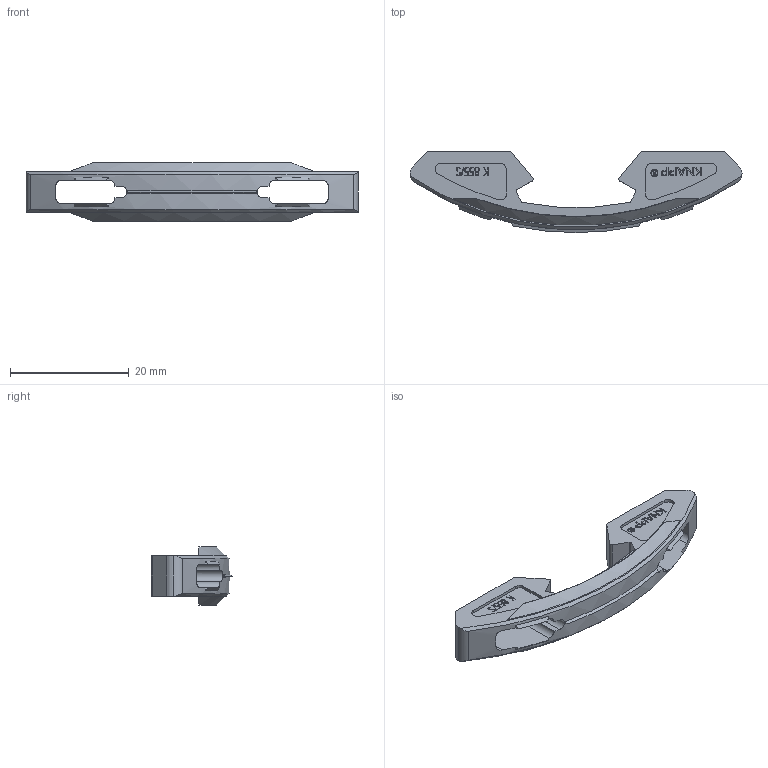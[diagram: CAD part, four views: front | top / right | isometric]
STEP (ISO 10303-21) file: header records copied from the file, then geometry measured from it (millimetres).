
FILE_DESCRIPTION(/* description */ ('Unknown'),/* implementation_level */ '2;1');
FILE_NAME(/* name */ 'K855_P002_V02_FIYU Fast 14 Klemmteil',/* time_stamp */ '2025-06-26T10:05:38+02:00',/* author */ ('Unknown'),/* organization */ ('Unknown'),/* preprocessor_version */ 'ST-DEVELOPER v19.4',/* originating_system */ 'Solid Edge',/* authorisation */ 'Unknown');
FILE_SCHEMA (('AUTOMOTIVE_DESIGN {1 0 10303 214 3 1 1}'));
Length unit declared in the file: millimetre
Products named in the file (1): K855_P002_V02_FIYU Fast 14 Klemmteil
Bounding box: 56 x 13.7 x 9.8 mm (x, y, z)
Volume: 1947 mm3; surface area: 2434 mm2
Topology: 1 solids, 1 shells, 322 faces, 858 edges, 572 vertices
Faces by surface type: plane 233, cylinder 42, bspline 37, cone 10
Entity records: 11262 total; most frequent: CARTESIAN_POINT 3881, ORIENTED_EDGE 1708, DIRECTION 1190, EDGE_CURVE 854, VERTEX_POINT 572, LINE 404, VECTOR 404, AXIS2_PLACEMENT_3D 393
